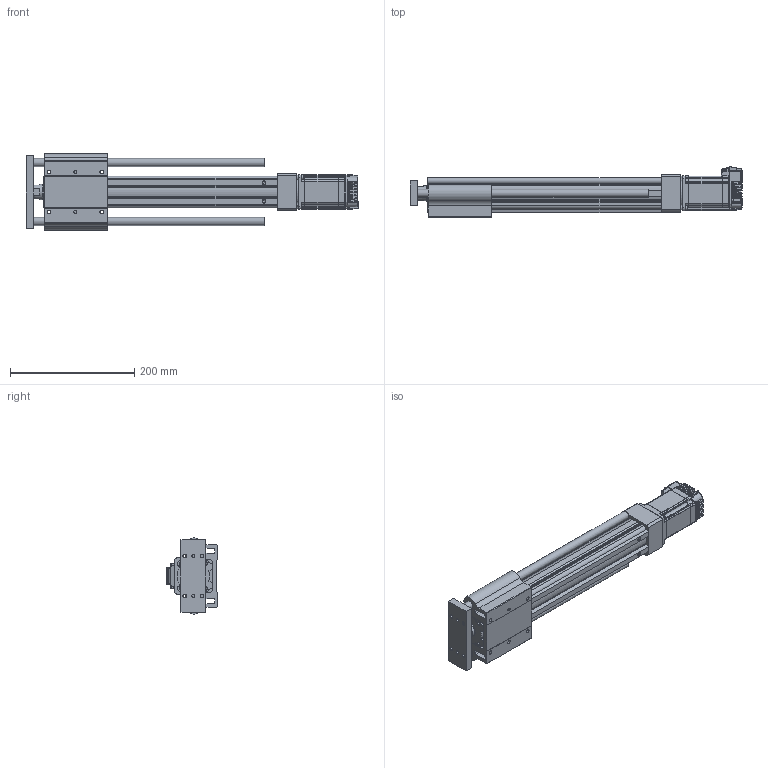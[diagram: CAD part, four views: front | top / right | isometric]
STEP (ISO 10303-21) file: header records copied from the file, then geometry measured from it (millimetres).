
FILE_DESCRIPTION (( 'STEP AP214' ), '1' );
FILE_NAME ('LEYG3(+)-32LDNM1□-250-23L.STEP', '2023-04-14T06:46:01', ( '' ), ( '' ), 'SwSTEP 2.0', 'SolidWorks 2019', '' );
FILE_SCHEMA (( 'AUTOMOTIVE_DESIGN' ));
Length unit declared in the file: millimetre
Products named in the file (6): CM3(+)-23L50A_2-M4_01; LEYG3(+)-32NM1?_BODY_250; LEYG3(+)-32LNM1?_ROD_250; LEY3(+)-32DNM1_MOTOR Flange; LEYG3(+)-32LNM1□_ATTACH_250; LEYG3(+)-32LDNM1□-250-23L
Assembly tree (5 placements, depth 2):
  LEYG3(+)-32LDNM1□-250-23L
    LEYG3(+)-32NM1?_BODY_250
    LEYG3(+)-32LNM1?_ROD_250
    LEYG3(+)-32LNM1□_ATTACH_250
    LEY3(+)-32DNM1_MOTOR Flange
    CM3(+)-23L50A_2-M4_01
Bounding box: 534.8 x 81.05 x 122.98 mm (x, y, z)
Volume: 1684220.5 mm3; surface area: 323865.9 mm2
Topology: 5 solids, 14 shells, 1518 faces, 3918 edges, 2430 vertices
Faces by surface type: plane 707, cylinder 466, bspline 133, cone 107, torus 58, sphere 47
Full cylindrical faces by diameter (mm): 2.5 x4, 3 x2, 3.2 x4, 4.2 x1, 4.5 x7, 4.9 x10, 5 x2, 6.2 x4, 6.35 x1, 7 x2, 8 x2, 13 x2, 24.5 x1, 25 x2, 32 x2, 38.1 x1
Entity records: 51618 total; most frequent: CARTESIAN_POINT 13066, ORIENTED_EDGE 7520, DIRECTION 7003, EDGE_CURVE 3760, VERTEX_POINT 2406, AXIS2_PLACEMENT_3D 2389, VECTOR 2225, LINE 2225
